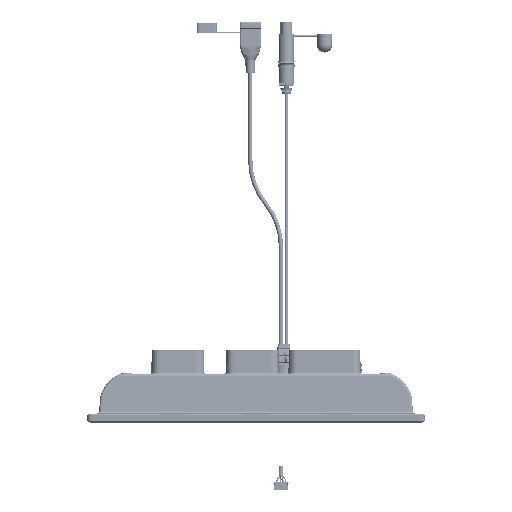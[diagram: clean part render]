
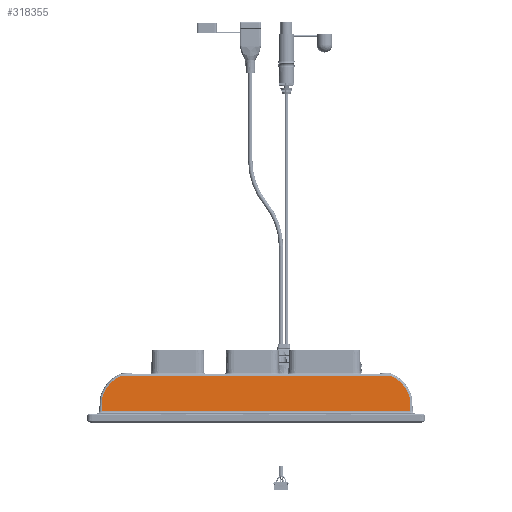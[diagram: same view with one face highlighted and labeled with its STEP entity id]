
A CAD part, front view. The second image highlights one B-rep face of the part: STEP entity #318355.
In plain terms, the highlighted planar face has unit normal (0, -0.998, 0.07) as drawn and (0, -0.998, -0.07) by its records, which use the part's own axes.
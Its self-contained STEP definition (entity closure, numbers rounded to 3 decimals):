
#2372 = EDGE_CURVE ( 'NONE', #112848, #22706, #174129, .T. ) ;
#3212 = PLANE ( 'NONE',  #100168 ) ;
#3393 = VERTEX_POINT ( 'NONE', #22262 ) ;
#4606 = CARTESIAN_POINT ( 'NONE',  ( 125.262, -82.531, -21.502 ) ) ;
#16113 = EDGE_CURVE ( 'NONE', #22706, #120144, #179223, .T. ) ;
#22262 = CARTESIAN_POINT ( 'NONE',  ( 112.427, -81.858, -31.14 ) ) ;
#22706 = VERTEX_POINT ( 'NONE', #231878 ) ;
#32334 =( BOUNDED_CURVE ( )  B_SPLINE_CURVE ( 3, ( #194236, #95742, #146633, #319728 ),
 .UNSPECIFIED., .F., .F. ) 
 B_SPLINE_CURVE_WITH_KNOTS ( ( 4, 4 ),
 ( 4.999, 5.852 ),
 .UNSPECIFIED. ) 
 CURVE ( )  GEOMETRIC_REPRESENTATION_ITEM ( )  RATIONAL_B_SPLINE_CURVE ( ( 1., 0.94, 0.94, 1. ) ) 
 REPRESENTATION_ITEM ( '' )  );
#39342 = ORIENTED_EDGE ( 'NONE', *, *, #266771, .T. ) ;
#45141 = EDGE_LOOP ( 'NONE', ( #39342, #257109, #179642, #238451, #292376, #249287 ) ) ;
#54206 = CARTESIAN_POINT ( 'NONE',  ( 130.535, -84.035, 0. ) ) ;
#68804 = EDGE_CURVE ( 'NONE', #3393, #285560, #157818, .T. ) ;
#77340 = DIRECTION ( 'NONE',  ( 0.07, -0.07, 0.995 ) ) ;
#79137 = DIRECTION ( 'NONE',  ( 0., -0.998, -0.07 ) ) ;
#87986 = DIRECTION ( 'NONE',  ( 0.07, 0.07, -0.995 ) ) ;
#95742 = CARTESIAN_POINT ( 'NONE',  ( -125.262, -82.531, -21.502 ) ) ;
#100168 = AXIS2_PLACEMENT_3D ( 'NONE', #54206, #79137, #252266 ) ;
#112848 = VERTEX_POINT ( 'NONE', #152922 ) ;
#120144 = VERTEX_POINT ( 'NONE', #310279 ) ;
#146070 = VECTOR ( 'NONE', #77340, 1000. ) ;
#146633 = CARTESIAN_POINT ( 'NONE',  ( -119.888, -82.097, -27.71 ) ) ;
#152922 = CARTESIAN_POINT ( 'NONE',  ( 128.41, -83.905, -1.86 ) ) ;
#153763 = LINE ( 'NONE', #225678, #146070 ) ;
#157818 =( BOUNDED_CURVE ( )  B_SPLINE_CURVE ( 3, ( #301344, #276442, #4606, #178001 ),
 .UNSPECIFIED., .F., .T. ) 
 B_SPLINE_CURVE_WITH_KNOTS ( ( 4, 4 ),
 ( 0.431, 1.284 ),
 .UNSPECIFIED. ) 
 CURVE ( )  GEOMETRIC_REPRESENTATION_ITEM ( )  RATIONAL_B_SPLINE_CURVE ( ( 1., 0.94, 0.94, 1. ) ) 
 REPRESENTATION_ITEM ( '' )  );
#160904 = CARTESIAN_POINT ( 'NONE',  ( 127.587, -83.082, -13.627 ) ) ;
#164779 = EDGE_CURVE ( 'NONE', #200093, #3393, #264370, .T. ) ;
#174129 = LINE ( 'NONE', #278337, #298015 ) ;
#178001 = CARTESIAN_POINT ( 'NONE',  ( 127.587, -83.082, -13.627 ) ) ;
#179223 = LINE ( 'NONE', #235247, #295305 ) ;
#179642 = ORIENTED_EDGE ( 'NONE', *, *, #68804, .T. ) ;
#194236 = CARTESIAN_POINT ( 'NONE',  ( -127.587, -83.082, -13.627 ) ) ;
#200093 = VERTEX_POINT ( 'NONE', #246078 ) ;
#225678 = CARTESIAN_POINT ( 'NONE',  ( 128.55, -84.045, 0.138 ) ) ;
#231878 = CARTESIAN_POINT ( 'NONE',  ( -128.41, -83.905, -1.86 ) ) ;
#235247 = CARTESIAN_POINT ( 'NONE',  ( -127.285, -82.78, -17.941 ) ) ;
#238451 = ORIENTED_EDGE ( 'NONE', *, *, #242380, .T. ) ;
#242380 = EDGE_CURVE ( 'NONE', #285560, #112848, #153763, .T. ) ;
#246078 = CARTESIAN_POINT ( 'NONE',  ( -112.427, -81.858, -31.14 ) ) ;
#248823 = VECTOR ( 'NONE', #272723, 1000. ) ;
#249287 = ORIENTED_EDGE ( 'NONE', *, *, #16113, .T. ) ;
#252266 = DIRECTION ( 'NONE',  ( 0., 0.07, -0.998 ) ) ;
#253496 = DIRECTION ( 'NONE',  ( -1., 0., 0. ) ) ;
#257109 = ORIENTED_EDGE ( 'NONE', *, *, #164779, .T. ) ;
#258902 = FACE_OUTER_BOUND ( 'NONE', #45141, .T. ) ;
#264370 = LINE ( 'NONE', #271646, #248823 ) ;
#266771 = EDGE_CURVE ( 'NONE', #120144, #200093, #32334, .T. ) ;
#271646 = CARTESIAN_POINT ( 'NONE',  ( 130.535, -81.858, -31.14 ) ) ;
#272723 = DIRECTION ( 'NONE',  ( 1., 0., 0. ) ) ;
#276442 = CARTESIAN_POINT ( 'NONE',  ( 119.888, -82.097, -27.71 ) ) ;
#278337 = CARTESIAN_POINT ( 'NONE',  ( -130.535, -83.905, -1.86 ) ) ;
#285560 = VERTEX_POINT ( 'NONE', #160904 ) ;
#292376 = ORIENTED_EDGE ( 'NONE', *, *, #2372, .T. ) ;
#295305 = VECTOR ( 'NONE', #87986, 1000. ) ;
#298015 = VECTOR ( 'NONE', #253496, 1000. ) ;
#301344 = CARTESIAN_POINT ( 'NONE',  ( 112.427, -81.858, -31.14 ) ) ;
#310279 = CARTESIAN_POINT ( 'NONE',  ( -127.587, -83.082, -13.627 ) ) ;
#318355 = ADVANCED_FACE ( 'NONE', ( #258902 ), #3212, .T. ) ;
#319728 = CARTESIAN_POINT ( 'NONE',  ( -112.427, -81.858, -31.14 ) ) ;
